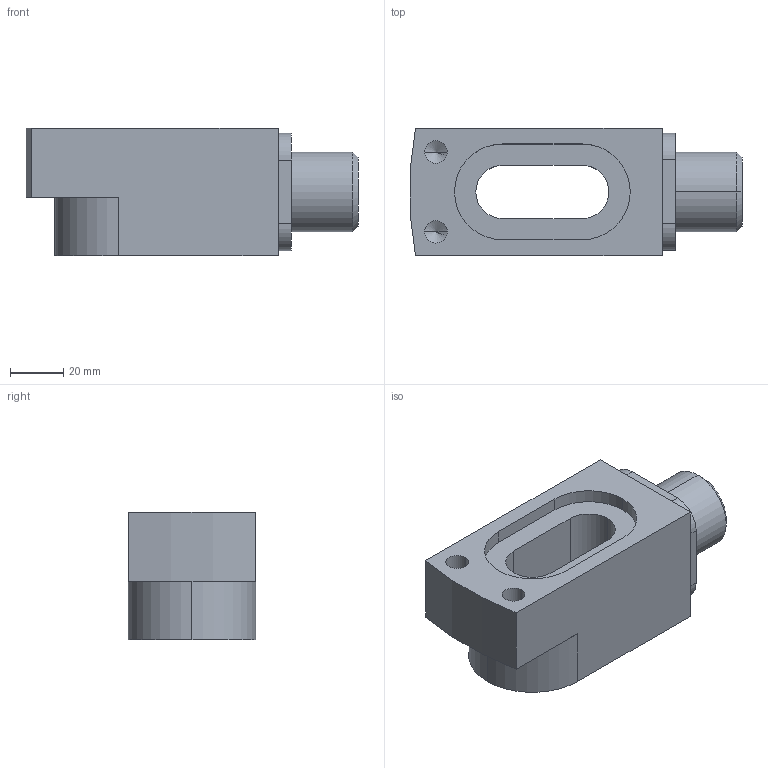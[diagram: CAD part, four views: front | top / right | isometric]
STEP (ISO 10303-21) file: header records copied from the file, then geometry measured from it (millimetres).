
FILE_DESCRIPTION (( 'STEP AP214' ), '1' );
FILE_NAME ('MILLING_2.STEP', '2015-05-08T17:48:21', ( '' ), ( '' ), 'SwSTEP 2.0', 'SolidWorks 2015', '' );
FILE_SCHEMA (( 'AUTOMOTIVE_DESIGN' ));
Length unit declared in the file: millimetre
Products named in the file (1): MILLING_2
Bounding box: 124.74 x 48 x 48 mm (x, y, z)
Volume: 169608.6 mm3; surface area: 30560 mm2
Topology: 1 solids, 1 shells, 48 faces, 120 edges, 76 vertices
Faces by surface type: cylinder 22, plane 20, cone 6
Entity records: 1518 total; most frequent: DIRECTION 260, CARTESIAN_POINT 241, ORIENTED_EDGE 232, EDGE_CURVE 116, AXIS2_PLACEMENT_3D 95, VERTEX_POINT 76, VECTOR 70, LINE 70
